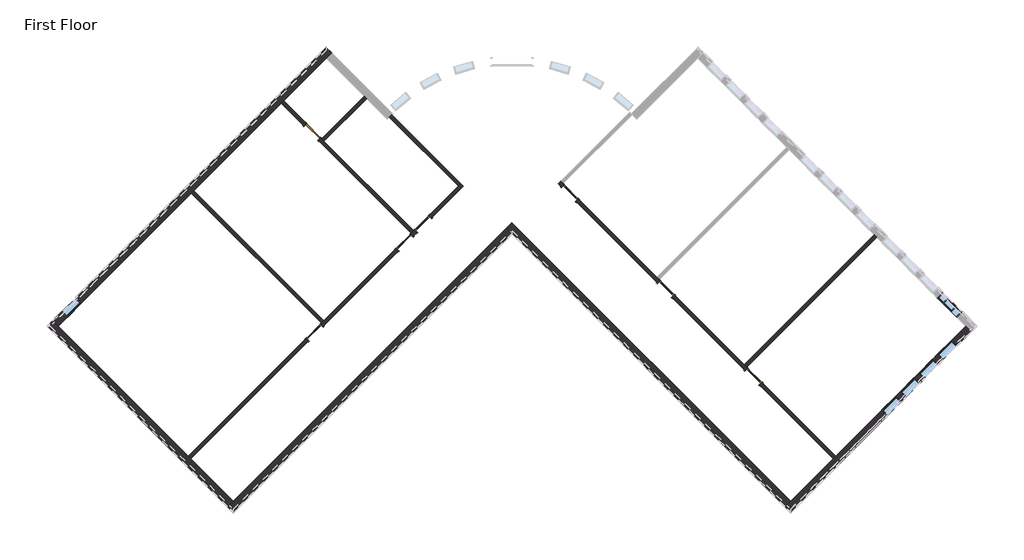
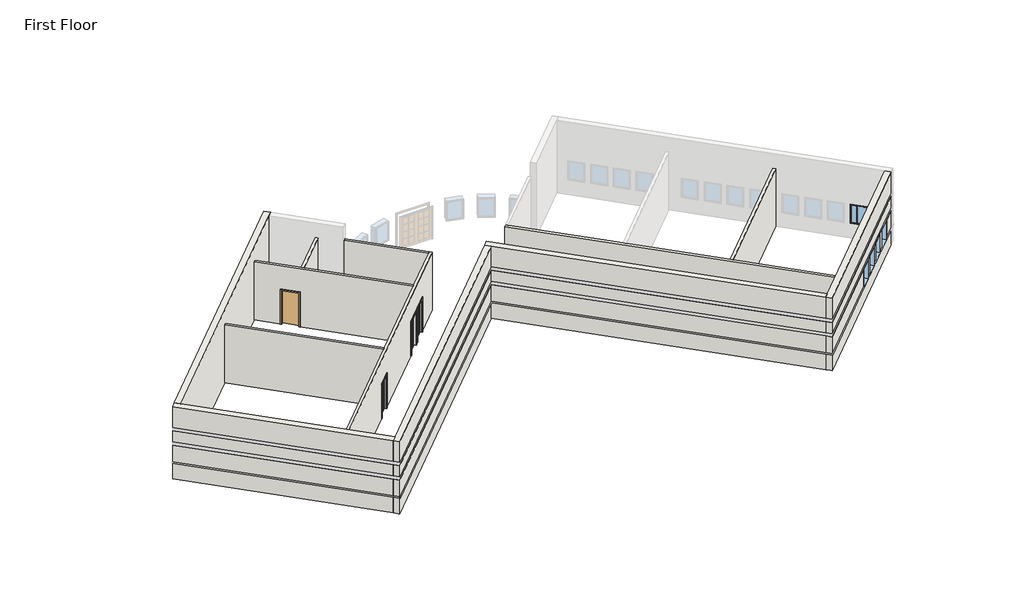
# One storey, part 1 of 3: 12 walls, 7 doors, 7 windows.
"""IFC4 building model written with IfcOpenShell, lengths in millimetres."""

import ifcopenshell
import ifcopenshell.guid

model = None  # the IFC model being written
_history = None  # IfcOwnerHistory: only IFC2X3 demands one
_inside = {}  # id of a spatial element -> (the spatial element, [elements in it])
_under = {}  # id of a project, library or spatial element -> (it, [spatial elements below it])
_declared = {}  # id of a project -> (the project, [libraries it declares])
_typed = {}  # id of a type object -> (the type object, [elements of that type])
_made_of = {}  # id of a material, layer set ... -> (it, [elements and type objects made of it])


def new_model(schema):
    """Start an empty IFC model of exactly this schema.

    Asked for "IFC4X3", IfcOpenShell would pick the latest addendum, in which some entities
    have other attributes; the version numbers below select the first issue.
    IFC2X3 requires an IfcOwnerHistory on every rooted entity: one is made here for all.
    """
    global model, _history
    if schema == "IFC4X3":
        model = ifcopenshell.file(schema_version=(4, 3, 0, 0))
    else:
        model = ifcopenshell.file(schema=schema)
    _inside.clear()
    _under.clear()
    _declared.clear()
    _typed.clear()
    _made_of.clear()
    _history = None
    if model.schema == "IFC2X3":
        org = make("IfcOrganization", Name="unknown")
        user = make(
            "IfcPersonAndOrganization",
            ThePerson=make("IfcPerson", FamilyName="unknown"),
            TheOrganization=org,
        )
        app = make(
            "IfcApplication",
            ApplicationDeveloper=org,
            Version="unknown",
            ApplicationFullName="unknown",
            ApplicationIdentifier="unknown",
        )
        _history = make(
            "IfcOwnerHistory",
            OwningUser=user,
            OwningApplication=app,
            ChangeAction="ADDED",
            CreationDate=0,
        )
    return model


def make(cls, **values):
    """One entity of the class cls with the attributes given. An attribute that is None is left unset."""
    return model.create_entity(
        cls, **{name: value for name, value in values.items() if value is not None}
    )


def rooted(cls, **values):
    """An entity with a GlobalId (a new one), such as an element, a storey or a relation."""
    return make(cls, GlobalId=ifcopenshell.guid.new(), OwnerHistory=_history, **values)


def si_unit(unit_type, name, prefix=None):
    """IfcSIUnit, for example si_unit("LENGTHUNIT", "METRE", prefix="MILLI")."""
    return make("IfcSIUnit", UnitType=unit_type, Prefix=prefix, Name=name)


def assignment(units):
    """IfcUnitAssignment: the units of a project."""
    return None if units is None else make("IfcUnitAssignment", Units=units)


def point(xyz):
    """IfcCartesianPoint."""
    return None if xyz is None else make("IfcCartesianPoint", Coordinates=xyz)


def direction(xyz):
    """IfcDirection."""
    return None if xyz is None else make("IfcDirection", DirectionRatios=xyz)


def frame(location, z_axis=None, x_axis=None):
    """IfcAxis2Placement3D, a coordinate frame: its origin and axes. An axis left out is left unset."""
    return make(
        "IfcAxis2Placement3D",
        Location=point(location),
        Axis=direction(z_axis),
        RefDirection=direction(x_axis),
    )


def frame_2d(location, x_axis=None):
    """IfcAxis2Placement2D, a coordinate frame in the plane: its origin and x axis."""
    return make(
        "IfcAxis2Placement2D", Location=point(location), RefDirection=direction(x_axis)
    )


def origin():
    """The frame at (0, 0, 0) with its axes left unset."""
    return frame((0.0, 0.0, 0.0))


def origin_with_axes():
    """The frame at (0, 0, 0) with the z axis (0, 0, 1) and the x axis (1, 0, 0) written out."""
    return frame((0.0, 0.0, 0.0), z_axis=(0.0, 0.0, 1.0), x_axis=(1.0, 0.0, 0.0))


def place(relative_to, where):
    """IfcLocalPlacement: puts the frame where relative to a parent placement (None: the world)."""
    return make(
        "IfcLocalPlacement", PlacementRelTo=relative_to, RelativePlacement=where
    )


def context(
    kind, dimensions, precision=None, world=None, true_north=None, identifier=None
):
    """IfcGeometricRepresentationContext, for example the 3D "Model" context."""
    return make(
        "IfcGeometricRepresentationContext",
        ContextIdentifier=identifier,
        ContextType=kind,
        CoordinateSpaceDimension=dimensions,
        Precision=precision,
        WorldCoordinateSystem=world,
        TrueNorth=true_north,
    )


def project(units=None, contexts=None):
    """IfcProject with its units and contexts."""
    return rooted(
        "IfcProject",
        Name="project",
        RepresentationContexts=contexts,
        UnitsInContext=assignment(units),
    )


def spatial(cls, under=None, at=None, **own):
    """A site, building, storey or space (cls), placed at a placement, below another one or the project."""
    s = rooted(cls, ObjectPlacement=at, **own)
    if under is not None:
        _under.setdefault(under.id(), (under, []))[1].append(s)
    return s


def polyline(points):
    """IfcPolyline through the points."""
    return make("IfcPolyline", Points=[point(p) for p in points])


def circle_curve(where, radius):
    """IfcCircle in the frame where."""
    return make("IfcCircle", Position=where, Radius=radius)


def trimmed(basis, trim1, trim2, sense, master):
    """IfcTrimmedCurve: the piece of a basis curve between two trims."""
    return make(
        "IfcTrimmedCurve",
        BasisCurve=basis,
        Trim1=trim1,
        Trim2=trim2,
        SenseAgreement=sense,
        MasterRepresentation=master,
    )


def segment(curve, same_sense, transition):
    """IfcCompositeCurveSegment."""
    return make(
        "IfcCompositeCurveSegment",
        Transition=transition,
        SameSense=same_sense,
        ParentCurve=curve,
    )


def composite_curve(segments, self_intersect=None):
    """IfcCompositeCurve: segments joined end to end."""
    return make("IfcCompositeCurve", Segments=segments, SelfIntersect=self_intersect)


def outline(outer, holes=None, kind="AREA"):
    """IfcArbitraryClosedProfileDef: a profile drawn as a closed curve; with holes, ...WithVoids."""
    if holes is None:
        return make("IfcArbitraryClosedProfileDef", ProfileType=kind, OuterCurve=outer)
    return make(
        "IfcArbitraryProfileDefWithVoids",
        ProfileType=kind,
        OuterCurve=outer,
        InnerCurves=holes,
    )


def extrude(swept, where, along, depth):
    """IfcExtrudedAreaSolid: the profile swept, set in the frame where, extruded along a direction by depth."""
    return make(
        "IfcExtrudedAreaSolid",
        SweptArea=swept,
        Position=where,
        ExtrudedDirection=direction(along),
        Depth=depth,
    )


def faces_of(points, faces, orient=None, outer=None):
    """IfcFace entities. A face is a list of loops; a loop is a list of indices into points, from 0.

    orient and outer hold one flag for each loop. By default every Orientation is true, the
    first loop of a face is its IfcFaceOuterBound and the others are IfcFaceBound.
    """
    made = []
    for i, loops in enumerate(faces):
        bounds = []
        for j, loop in enumerate(loops):
            is_outer = j == 0 if outer is None else outer[i][j]
            bounds.append(
                make(
                    "IfcFaceOuterBound" if is_outer else "IfcFaceBound",
                    Bound=make("IfcPolyLoop", Polygon=[points[k] for k in loop]),
                    Orientation=True if orient is None else orient[i][j],
                )
            )
        made.append(make("IfcFace", Bounds=bounds))
    return made


def faceted_brep(points, faces, orient=None, outer=None, voids=None):
    """IfcFacetedBrep: a solid bounded by flat faces; with voids (closed shells), ...WithVoids."""
    shared = [point(p) for p in points]
    hull = make("IfcClosedShell", CfsFaces=faces_of(shared, faces, orient, outer))
    if voids is None:
        return make("IfcFacetedBrep", Outer=hull)
    return make(
        "IfcFacetedBrepWithVoids",
        Outer=hull,
        Voids=[
            make(cls, CfsFaces=faces_of(shared, fs, o, b)) for cls, fs, o, b in voids
        ],
    )


def shape(context_of_items, identifier, shape_type, items):
    """IfcShapeRepresentation: the items that make up one representation, for example the "Body"."""
    return make(
        "IfcShapeRepresentation",
        ContextOfItems=context_of_items,
        RepresentationIdentifier=identifier,
        RepresentationType=shape_type,
        Items=items,
    )


def source(mapping_origin, context_of_items, identifier, shape_type, items):
    """IfcRepresentationMap: a shape defined once, which mapped items show again and again."""
    return make(
        "IfcRepresentationMap",
        MappingOrigin=mapping_origin,
        MappedRepresentation=shape(context_of_items, identifier, shape_type, items),
    )


def transform(
    local_origin,
    x_axis=None,
    y_axis=None,
    z_axis=None,
    scale=None,
    scale2=None,
    scale3=None,
    uniform=True,
):
    """IfcCartesianTransformationOperator3D, or its non-uniform kind. x_axis, y_axis, z_axis: its Axis1, 2, 3."""
    if uniform:
        return make(
            "IfcCartesianTransformationOperator3D",
            Axis1=direction(x_axis),
            Axis2=direction(y_axis),
            LocalOrigin=point(local_origin),
            Scale=scale,
            Axis3=direction(z_axis),
        )
    return make(
        "IfcCartesianTransformationOperator3DnonUniform",
        Axis1=direction(x_axis),
        Axis2=direction(y_axis),
        LocalOrigin=point(local_origin),
        Scale=scale,
        Axis3=direction(z_axis),
        Scale2=scale2,
        Scale3=scale3,
    )


def mapped(mapping_source, mapping_target):
    """IfcMappedItem: shows the shape of a source again, moved by a transform."""
    return make(
        "IfcMappedItem", MappingSource=mapping_source, MappingTarget=mapping_target
    )


def made_of(thing, what):
    """Note that an element or type object is made of a material, layer set ...; save() writes the relation."""
    if what is not None:
        _made_of.setdefault(what.id(), (what, []))[1].append(thing)
    return thing


def element(
    cls,
    number,
    at=None,
    inside=None,
    cuts=None,
    type_object=None,
    material=None,
    context=None,
    identifier="Body",
    shape_type=None,
    held_by="IfcProductDefinitionShape",
    body=None,
    shapes=None,
    **own,
):
    """One element of the class cls, such as IfcWall. Its Tag is "e" and its number.

    at: its placement. inside: the storey or other place that contains it. cuts: it is an
    opening in that element (IfcRelVoidsElement). A single representation is given by context,
    identifier, shape_type and body (its items); several are given by shapes. held_by: the class
    of the entity that holds the representations. save() writes the other relations.
    """
    e = rooted(cls, Tag="e%d" % number, ObjectPlacement=at, **own)
    if body is not None:
        shapes = [shape(context, identifier, shape_type, body)]
    if shapes is not None:
        e.Representation = make(held_by, Representations=shapes)
    if inside is not None:
        _inside.setdefault(inside.id(), (inside, []))[1].append(e)
    if cuts is not None:
        rooted(
            "IfcRelVoidsElement", RelatingBuildingElement=cuts, RelatedOpeningElement=e
        )
    if type_object is not None:
        _typed.setdefault(type_object.id(), (type_object, []))[1].append(e)
    return made_of(e, material)


def aggregate(whole, parts):
    """IfcRelAggregates: a whole, such as a stair, and the parts it consists of."""
    return rooted("IfcRelAggregates", RelatingObject=whole, RelatedObjects=parts)


def save(model, path):
    """Write the relations noted so far, then the file.

    IfcRelAggregates (storeys below a building ...), IfcRelContainedInSpatialStructure (elements
    in a storey), IfcRelDefinesByType, IfcRelAssociatesMaterial and IfcRelDeclares: one each for
    every whole, place, type object, material and project.
    """
    for whole, parts in _under.values():
        aggregate(whole, parts)
    for where, things in _inside.values():
        rooted(
            "IfcRelContainedInSpatialStructure",
            RelatedElements=things,
            RelatingStructure=where,
        )
    for kind, things in _typed.values():
        rooted("IfcRelDefinesByType", RelatedObjects=things, RelatingType=kind)
    for what, things in _made_of.values():
        rooted("IfcRelAssociatesMaterial", RelatedObjects=things, RelatingMaterial=what)
    for by, libraries in _declared.values():
        rooted("IfcRelDeclares", RelatingContext=by, RelatedDefinitions=libraries)
    model.write(path)


def door_f9494b7c(model_context):
    return source(origin(), model_context, "Body", "SweptSolid", [
        extrude(outline(polyline([(2209.8, -533.4), (0.0, -533.4), (0.0, -457.2), (2133.6, -457.2), (2133.6, 457.2), (0.0, 457.2), (0.0, 533.4), (2209.8, 533.4), (2209.8, -533.4)])), frame((0.0, 77.7875, 0.0), z_axis=(0.0, 1.0, 0.0), x_axis=(0.0, 0.0, 1.0)), (0.0, 0.0, 1.0), 25.4),
        extrude(outline(polyline([(2209.8, 533.4), (2209.8, -533.4), (0.0, -533.4), (0.0, -457.2), (2133.6, -457.2), (2133.6, 457.2), (0.0, 457.2), (0.0, 533.4), (2209.8, 533.4)])), frame((0.0, -103.1875, 0.0), z_axis=(0.0, 1.0, 0.0), x_axis=(0.0, 0.0, 1.0)), (0.0, 0.0, 1.0), 25.4),
        extrude(outline(polyline([(457.2, 26.9875), (-457.2, 26.9875), (-457.2, 77.7875), (457.2, 77.7875), (457.2, 26.9875)])), origin_with_axes(), (0.0, 0.0, 1.0), 2133.6),
    ])


def door_b81abb0e(model_context):
    return source(origin(), model_context, "Body", "SweptSolid", [
        extrude(outline(polyline([(2133.6, 457.2), (0.0, 457.2), (0.0, 533.4), (2209.8, 533.4), (2209.8, -533.4), (0.0, -533.4), (0.0, -457.2), (2133.6, -457.2), (2133.6, 457.2)])), frame((0.0, -103.1875, 0.0), z_axis=(0.0, 1.0, 0.0), x_axis=(0.0, 0.0, 1.0)), (0.0, 0.0, 1.0), 25.4),
        extrude(outline(polyline([(2133.6, 457.2), (0.0, 457.2), (0.0, 533.4), (2209.8, 533.4), (2209.8, -533.4), (0.0, -533.4), (0.0, -457.2), (2133.6, -457.2), (2133.6, 457.2)])), frame((0.0, 77.7875, 0.0), z_axis=(0.0, 1.0, 0.0), x_axis=(0.0, 0.0, 1.0)), (0.0, 0.0, 1.0), 25.4),
        extrude(outline(polyline([(355.6, 49.2125), (-355.6, 49.2125), (-355.6, 55.5625), (355.6, 55.5625), (355.6, 49.2125)])), frame((0.0, 0.0, 101.6), z_axis=(0.0, 0.0, 1.0), x_axis=(1.0, 0.0, 0.0)), (0.0, 0.0, 1.0), 1930.4),
        extrude(outline(polyline([(2133.6, 457.2), (2133.6, -457.2), (0.0, -457.2), (0.0, 457.2), (2133.6, 457.2)]), holes=[polyline([(2032.0, -355.6), (2032.0, 355.6), (101.6, 355.6), (101.6, -355.6), (2032.0, -355.6)])]), frame((0.0, 26.9875, 0.0), z_axis=(0.0, 1.0, 0.0), x_axis=(0.0, 0.0, 1.0)), (0.0, 0.0, 1.0), 50.8),
    ])


def door_5f5b55da(model_context):
    return source(origin(), model_context, "Body", "SweptSolid", [
        extrude(outline(polyline([(2133.6, 457.2), (0.0, 457.2), (0.0, 533.4), (2209.8, 533.4), (2209.8, -533.4), (0.0, -533.4), (0.0, -457.2), (2133.6, -457.2), (2133.6, 457.2)])), frame((0.0, 77.7875, 0.0), z_axis=(0.0, 1.0, 0.0), x_axis=(0.0, 0.0, 1.0)), (0.0, 0.0, 1.0), 25.4),
        extrude(outline(polyline([(2133.6, 457.2), (0.0, 457.2), (0.0, 533.4), (2209.8, 533.4), (2209.8, -533.4), (0.0, -533.4), (0.0, -457.2), (2133.6, -457.2), (2133.6, 457.2)])), frame((0.0, -103.1875, 0.0), z_axis=(0.0, 1.0, 0.0), x_axis=(0.0, 0.0, 1.0)), (0.0, 0.0, 1.0), 25.4),
        extrude(outline(polyline([(355.6, -49.2125), (355.6, -55.5625), (-355.6, -55.5625), (-355.6, -49.2125), (355.6, -49.2125)])), frame((0.0, 0.0, 101.6), z_axis=(0.0, 0.0, 1.0), x_axis=(1.0, 0.0, 0.0)), (0.0, 0.0, 1.0), 1930.4),
        extrude(outline(polyline([(2133.6, 457.2), (2133.6, -457.2), (0.0, -457.2), (0.0, 457.2), (2133.6, 457.2)]), holes=[polyline([(2032.0, -355.6), (2032.0, 355.6), (101.6, 355.6), (101.6, -355.6), (2032.0, -355.6)])]), frame((0.0, -77.7875, 0.0), z_axis=(0.0, 1.0, 0.0), x_axis=(0.0, 0.0, 1.0)), (0.0, 0.0, 1.0), 50.8),
    ])


def window_15c49d37(model_context):
    return source(origin(), model_context, "Body", "SweptSolid", [
        extrude(outline(polyline([(355.6, 128.5875), (-431.8, 128.5875), (-431.8, 141.2875), (355.6, 141.2875), (355.6, 128.5875)])), frame((0.0, 0.0, 977.9), z_axis=(0.0, 0.0, 1.0), x_axis=(1.0, 0.0, 0.0)), (0.0, 0.0, 1.0), 1092.2),
        extrude(outline(polyline([(2114.55, -476.25), (933.45, -476.25), (933.45, 400.05), (2114.55, 400.05), (2114.55, -476.25)]), holes=[polyline([(2070.1, -431.8), (2070.1, 355.6), (977.9, 355.6), (977.9, -431.8), (2070.1, -431.8)])]), frame((0.0, 112.7125, 0.0), z_axis=(0.0, 1.0, 0.0), x_axis=(0.0, 0.0, 1.0)), (0.0, 0.0, 1.0), 44.45),
        extrude(outline(polyline([(2133.6, -495.3), (914.4, -495.3), (914.4, 419.1), (2133.6, 419.1), (2133.6, -495.3)]), holes=[polyline([(2101.85, -463.55), (2101.85, 387.35), (946.15, 387.35), (946.15, -463.55), (2101.85, -463.55)])]), frame((0.0, -176.2125, 0.0), z_axis=(0.0, 1.0, 0.0), x_axis=(0.0, 0.0, 1.0)), (0.0, 0.0, 1.0), 288.925),
        extrude(outline(polyline([(2133.6, 419.1), (2133.6, -495.3), (914.4, -495.3), (914.4, 419.1), (2133.6, 419.1)]), holes=[polyline([(2114.55, 400.05), (933.45, 400.05), (933.45, -476.25), (2114.55, -476.25), (2114.55, 400.05)])]), frame((0.0, 112.7125, 0.0), z_axis=(0.0, 1.0, 0.0), x_axis=(0.0, 0.0, 1.0)), (0.0, 0.0, 1.0), 63.5),
    ])


def window_0e2fc6ce(model_context):
    return source(origin(), model_context, "Body", "SweptSolid", [
        extrude(outline(polyline([(355.6, -128.5875), (355.6, -141.2875), (-431.8, -141.2875), (-431.8, -128.5875), (355.6, -128.5875)])), frame((0.0, 0.0, 977.9), z_axis=(0.0, 0.0, 1.0), x_axis=(1.0, 0.0, 0.0)), (0.0, 0.0, 1.0), 1092.2),
        extrude(outline(polyline([(2114.55, -476.25), (933.45, -476.25), (933.45, 400.05), (2114.55, 400.05), (2114.55, -476.25)]), holes=[polyline([(2070.1, -431.8), (2070.1, 355.6), (977.9, 355.6), (977.9, -431.8), (2070.1, -431.8)])]), frame((0.0, -157.1625, 0.0), z_axis=(0.0, 1.0, 0.0), x_axis=(0.0, 0.0, 1.0)), (0.0, 0.0, 1.0), 44.45),
        extrude(outline(polyline([(2133.6, -495.3), (914.4, -495.3), (914.4, 419.1), (2133.6, 419.1), (2133.6, -495.3)]), holes=[polyline([(2101.85, -463.55), (2101.85, 387.35), (946.15, 387.35), (946.15, -463.55), (2101.85, -463.55)])]), frame((0.0, -112.7125, 0.0), z_axis=(0.0, 1.0, 0.0), x_axis=(0.0, 0.0, 1.0)), (0.0, 0.0, 1.0), 288.925),
        extrude(outline(polyline([(2133.6, 419.1), (2133.6, -495.3), (914.4, -495.3), (914.4, 419.1), (2133.6, 419.1)]), holes=[polyline([(2114.55, 400.05), (933.45, 400.05), (933.45, -476.25), (2114.55, -476.25), (2114.55, 400.05)])]), frame((0.0, -176.2125, 0.0), z_axis=(0.0, 1.0, 0.0), x_axis=(0.0, 0.0, 1.0)), (0.0, 0.0, 1.0), 63.5),
    ])


model = new_model("IFC4")

# Units and contexts
model_context = context("Model", 3, world=origin())
ifc_project = project(units=[si_unit("LENGTHUNIT", "METRE", prefix="MILLI")], contexts=[model_context])

# Site, building, storey
site = spatial("IfcSite", under=ifc_project)
building = spatial("IfcBuilding", under=site)
storey = spatial("IfcBuildingStorey", under=building, Name="First Floor", Elevation=0.0)

# Doors
placement = place(None, origin())
door_shape = door_f9494b7c(model_context)
element("IfcDoor", 1, ObjectType="Single-Flush : 36\" x 84\"", at=placement, inside=storey, context=model_context, shape_type="MappedRepresentation", body=[
    mapped(door_shape, transform((-12710.6349126, 7029.9464017, 0.0), x_axis=(0.7071067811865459, -0.7071067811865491, 0.0), y_axis=(0.7071067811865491, 0.7071067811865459, 0.0), z_axis=(0.0, 0.0, 1.0))),
])
door_2_shape = door_b81abb0e(model_context)
element("IfcDoor", 2, ObjectType="Single-Glass 1 : 36\" x 84\"", at=placement, inside=storey, context=model_context, shape_type="MappedRepresentation", body=[
    mapped(door_2_shape, transform((-12602.8718391, -2278.0890678, 0.0), x_axis=(0.707106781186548, 0.707106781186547, 0.0), y_axis=(-0.707106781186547, 0.707106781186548, 0.0), z_axis=(0.0, 0.0, 1.0))),
])
element("IfcDoor", 3, ObjectType="Single-Glass 1 : 36\" x 84\"", at=placement, inside=storey, context=model_context, shape_type="MappedRepresentation", body=[
    mapped(door_2_shape, transform((-8433.7879349, 1890.9948364, 0.0), x_axis=(0.707106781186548, 0.707106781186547, 0.0), y_axis=(-0.707106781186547, 0.707106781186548, 0.0), z_axis=(0.0, 0.0, 1.0))),
])
door_3_shape = door_5f5b55da(model_context)
element("IfcDoor", 4, ObjectType="Single-Glass 1 : 36\" x 84\"", at=placement, inside=storey, context=model_context, shape_type="MappedRepresentation", body=[
    mapped(door_3_shape, transform((-7571.6833473, 2753.0994241, 0.0), x_axis=(-0.707106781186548, -0.707106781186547, 0.0), y_axis=(0.707106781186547, -0.707106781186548, 0.0), z_axis=(0.0, 0.0, 1.0))),
])
element("IfcDoor", 5, ObjectType="Single-Glass 1 : 36\" x 84\"", at=placement, inside=storey, context=model_context, shape_type="MappedRepresentation", body=[
    mapped(door_3_shape, transform((-756.7914834, 4195.5530635, 0.0), x_axis=(-0.7071067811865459, 0.7071067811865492, 0.0), y_axis=(-0.7071067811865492, -0.7071067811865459, 0.0), z_axis=(0.0, 0.0, 1.0))),
])
element("IfcDoor", 6, ObjectType="Single-Glass 1 : 36\" x 84\"", at=placement, inside=storey, context=model_context, shape_type="MappedRepresentation", body=[
    mapped(door_3_shape, transform((3703.0282127, -264.2666326, 0.0), x_axis=(-0.7071067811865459, 0.7071067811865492, 0.0), y_axis=(-0.7071067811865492, -0.7071067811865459, 0.0), z_axis=(0.0, 0.0, 1.0))),
])
element("IfcDoor", 7, ObjectType="Single-Glass 1 : 36\" x 84\"", at=placement, inside=storey, context=model_context, shape_type="MappedRepresentation", body=[
    mapped(door_3_shape, transform((7764.3490435, -4325.5874634, 0.0), x_axis=(-0.7071067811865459, 0.7071067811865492, 0.0), y_axis=(-0.7071067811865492, -0.7071067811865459, 0.0), z_axis=(0.0, 0.0, 1.0))),
])

# Walls
element("IfcWall", 8, ObjectType="Exterior - Split Face and CMU on Mtl. Stud", at=placement, inside=storey, context=model_context, shape_type="Brep", body=[
    faceted_brep([(17611.1998802, -1988.4758079, 0.0), (11574.2227029, -8025.4529853, 0.0), (11464.2145654, -8135.4611227, 0.0), (9488.5582187, -10111.1174694, 0.0), (9239.3561114, -10360.3195767, 0.0), (9239.3561114, -10360.3195767, 1016.0), (9304.4629682, -10295.2127199, 1016.0), (9304.4629682, -10295.2127199, 1085.85), (9239.3561114, -10360.3195767, 1085.85), (9239.3561114, -10360.3195767, 2133.6), (9304.4629682, -10295.2127199, 2133.6), (9304.4629682, -10295.2127199, 2336.8), (9239.3561114, -10360.3195767, 2336.8), (9239.3561114, -10360.3195767, 3048.0), (9304.4629682, -10295.2127199, 3048.0), (9304.4629682, -10295.2127199, 3251.2), (9239.3561114, -10360.3195767, 3251.2), (9239.3561114, -10360.3195767, 4572.0), (9488.5582187, -10111.1174694, 4572.0), (17611.1998802, -1988.4758079, 4572.0), (16301.2050186, -3298.4706695, 2133.6), (16301.2050186, -3298.4706695, 914.4), (16947.7834593, -2651.8922288, 914.4), (16947.7834593, -2651.8922288, 2133.6), (15439.100431, -4160.5752571, 2133.6), (15439.100431, -4160.5752571, 914.4), (16085.6788717, -3513.9968164, 914.4), (16085.6788717, -3513.9968164, 2133.6), (14576.9958433, -5022.6798448, 2133.6), (14576.9958433, -5022.6798448, 914.4), (15223.574284, -4376.1014041, 914.4), (15223.574284, -4376.1014041, 2133.6), (13714.8912557, -5884.7844324, 2133.6), (13714.8912557, -5884.7844324, 914.4), (14361.4696964, -5238.2059917, 914.4), (14361.4696964, -5238.2059917, 2133.6), (17860.4019876, -2237.6779152, 4572.0), (9488.5582187, -10609.5216841, 4572.0), (9488.5582187, -10609.5216841, 3251.2), (17860.4019876, -2237.6779152, 3251.2), (9488.5582187, -10609.5216841, 0.0), (17860.4019876, -2237.6779152, 0.0), (17860.4019876, -2237.6779152, 1016.0), (17196.9855667, -2901.0943362, 1016.0), (17196.9855667, -2901.0943362, 914.4), (16550.4071259, -3547.6727769, 914.4), (16550.4071259, -3547.6727769, 1016.0), (16334.880979, -3763.1989238, 1016.0), (16334.880979, -3763.1989238, 914.4), (15688.3025383, -4409.7773645, 914.4), (15688.3025383, -4409.7773645, 1016.0), (15472.7763914, -4625.3035114, 1016.0), (15472.7763914, -4625.3035114, 914.4), (14826.1979507, -5271.8819521, 914.4), (14826.1979507, -5271.8819521, 1016.0), (14610.6718038, -5487.408099, 1016.0), (14610.6718038, -5487.408099, 914.4), (13964.0933631, -6133.9865398, 914.4), (13964.0933631, -6133.9865398, 1016.0), (9488.5582187, -10609.5216841, 1016.0), (9488.5582187, -10609.5216841, 1085.85), (13964.0933631, -6133.9865398, 1085.85), (13964.0933631, -6133.9865398, 2133.6), (9488.5582187, -10609.5216841, 2133.6), (17196.9855667, -2901.0943362, 1085.85), (17860.4019876, -2237.6779152, 1085.85), (17860.4019876, -2237.6779152, 2133.6), (17196.9855667, -2901.0943362, 2133.6), (9488.5582187, -10609.5216841, 2336.8), (17860.4019876, -2237.6779152, 2336.8), (17860.4019876, -2237.6779152, 3048.0), (9488.5582187, -10609.5216841, 3048.0), (16550.4071259, -3547.6727769, 1085.85), (16550.4071259, -3547.6727769, 2133.6), (16334.880979, -3763.1989238, 2133.6), (16334.880979, -3763.1989238, 1085.85), (15688.3025383, -4409.7773645, 1085.85), (15688.3025383, -4409.7773645, 2133.6), (15472.7763914, -4625.3035114, 2133.6), (15472.7763914, -4625.3035114, 1085.85), (14826.1979507, -5271.8819521, 1085.85), (14826.1979507, -5271.8819521, 2133.6), (14610.6718038, -5487.408099, 2133.6), (14610.6718038, -5487.408099, 1085.85), (17795.2951307, -2172.5710583, 0.0), (9423.4513619, -10544.4148272, 0.0), (9488.5582187, -10479.3079703, 1085.85), (13898.9865062, -6068.8796829, 1085.85), (13898.9865062, -6068.8796829, 1016.0), (9488.5582187, -10479.3079703, 1016.0), (17795.2951307, -2172.5710583, 2336.8), (9488.5582187, -10479.3079703, 2336.8), (9488.5582187, -10479.3079703, 2133.6), (13898.9865062, -6068.8796829, 2133.6), (14545.5649469, -5422.3012422, 2133.6), (14761.0910938, -5206.7750953, 2133.6), (15407.6695345, -4560.1966545, 2133.6), (15623.1956814, -4344.6705076, 2133.6), (16269.7741222, -3698.0920669, 2133.6), (16485.3002691, -3482.56592, 2133.6), (17131.8787098, -2835.9874793, 2133.6), (17795.2951307, -2172.5710583, 2133.6), (9488.5582187, -10479.3079703, 3251.2), (9488.5582187, -10479.3079703, 3048.0), (17795.2951307, -2172.5710583, 3048.0), (17795.2951307, -2172.5710583, 3251.2), (17795.2951307, -2172.5710583, 1085.85), (17795.2951307, -2172.5710583, 1016.0), (17131.8787098, -2835.9874793, 1085.85), (17131.8787098, -2835.9874793, 1016.0), (16485.3002691, -3482.56592, 1085.85), (16485.3002691, -3482.56592, 1016.0), (15623.1956814, -4344.6705076, 1085.85), (15623.1956814, -4344.6705076, 1016.0), (16269.7741222, -3698.0920669, 1016.0), (16269.7741222, -3698.0920669, 1085.85), (14761.0910938, -5206.7750953, 1085.85), (14761.0910938, -5206.7750953, 1016.0), (15407.6695345, -4560.1966545, 1016.0), (15407.6695345, -4560.1966545, 1085.85), (14545.5649469, -5422.3012422, 1016.0), (14545.5649469, -5422.3012422, 1085.85)], [[[0, 1, 2, 3, 4, 5, 6, 7, 8, 9, 10, 11, 12, 13, 14, 15, 16, 17, 18, 19], [20, 21, 22, 23], [24, 25, 26, 27], [28, 29, 30, 31], [32, 33, 34, 35]], [[36, 37, 38, 39]], [[40, 41, 42, 43, 44, 45, 46, 47, 48, 49, 50, 51, 52, 53, 54, 55, 56, 57, 58, 59]], [[60, 61, 62, 63]], [[64, 65, 66, 67]], [[68, 69, 70, 71]], [[72, 73, 74, 75]], [[76, 77, 78, 79]], [[80, 81, 82, 83]], [[19, 18, 17, 37, 36]], [[4, 3, 2, 1, 0, 84, 85]], [[86, 87, 61, 60, 8, 7]], [[88, 89, 6, 5, 59, 58]], [[87, 86, 89, 88]], [[90, 91, 92, 93, 94, 95, 96, 97, 98, 99, 100, 101]], [[102, 103, 104, 105]], [[0, 19, 36, 39, 105, 104, 70, 69, 90, 101, 66, 65, 106, 107, 42, 41, 84]], [[41, 40, 85, 84]], [[65, 64, 108, 106]], [[43, 42, 107, 109]], [[66, 101, 100, 67]], [[63, 62, 93, 92, 10, 9]], [[99, 98, 74, 73]], [[97, 96, 78, 77]], [[95, 94, 82, 81]], [[91, 90, 69, 68, 12, 11]], [[104, 103, 14, 13, 71, 70]], [[15, 102, 105, 39, 38, 16]], [[37, 17, 16, 38]], [[4, 85, 40, 59, 5]], [[12, 68, 71, 13]], [[9, 8, 60, 63]], [[92, 91, 11, 10]], [[103, 102, 15, 14]], [[21, 20, 99, 73, 72, 110, 111, 46, 45]], [[22, 21, 45, 44]], [[23, 22, 44, 43, 109, 108, 64, 67, 100]], [[20, 23, 100, 99]], [[25, 24, 97, 77, 76, 112, 113, 50, 49]], [[26, 25, 49, 48]], [[27, 26, 48, 47, 114, 115, 75, 74, 98]], [[24, 27, 98, 97]], [[29, 28, 95, 81, 80, 116, 117, 54, 53]], [[30, 29, 53, 52]], [[31, 30, 52, 51, 118, 119, 79, 78, 96]], [[28, 31, 96, 95]], [[33, 32, 93, 62, 61, 87, 88, 58, 57]], [[34, 33, 57, 56]], [[35, 34, 56, 55, 120, 121, 83, 82, 94]], [[32, 35, 94, 93]], [[106, 108, 109, 107]], [[115, 110, 72, 75]], [[111, 114, 47, 46]], [[110, 115, 114, 111]], [[119, 112, 76, 79]], [[113, 118, 51, 50]], [[112, 119, 118, 113]], [[121, 116, 80, 83]], [[117, 120, 55, 54]], [[116, 121, 120, 117]], [[89, 86, 7, 6]]]),
])
element("IfcWall", 9, ObjectType="Exterior - Split Face and CMU on Mtl. Stud", at=placement, inside=storey, context=model_context, shape_type="Brep", body=[
    faceted_brep([(9488.5582187, -10111.1174694, 0.0), (-3443.0105956, 2820.451345, 0.0), (-3443.0105956, 2820.451345, 4572.0), (9488.5582187, -10111.1174694, 4572.0), (9239.3561114, -10360.3195767, 4572.0), (-3443.0105956, 2322.0471303, 4572.0), (-3692.212703, 2571.2492376, 4572.0), (-3692.212703, 2571.2492376, 0.0), (-3443.0105956, 2322.0471303, 0.0), (9239.3561114, -10360.3195767, 0.0), (9239.3561114, -10360.3195767, 1016.0), (-3443.0105956, 2322.0471303, 1016.0), (-3508.1174525, 2387.1539871, 1016.0), (-3508.1174525, 2387.1539871, 1085.85), (-3443.0105956, 2322.0471303, 1085.85), (9239.3561114, -10360.3195767, 1085.85), (9239.3561114, -10360.3195767, 2133.6), (-3443.0105956, 2322.0471303, 2133.6), (-3508.1174525, 2387.1539871, 2133.6), (-3508.1174525, 2387.1539871, 2336.8), (-3443.0105956, 2322.0471303, 2336.8), (9239.3561114, -10360.3195767, 2336.8), (9239.3561114, -10360.3195767, 3048.0), (-3443.0105956, 2322.0471303, 3048.0), (-3508.1174525, 2387.1539871, 3048.0), (-3508.1174525, 2387.1539871, 3251.2), (-3443.0105956, 2322.0471303, 3251.2), (9239.3561114, -10360.3195767, 3251.2), (9304.4629682, -10295.2127199, 0.0), (-3627.1058461, 2636.3560945, 0.0), (-3443.0105956, 2452.260844, 1016.0), (9304.4629682, -10295.2127199, 1016.0), (9304.4629682, -10295.2127199, 1085.85), (-3443.0105956, 2452.260844, 1085.85), (-3443.0105956, 2452.260844, 2133.6), (9304.4629682, -10295.2127199, 2133.6), (9304.4629682, -10295.2127199, 2336.8), (-3443.0105956, 2452.260844, 2336.8), (-3443.0105956, 2452.260844, 3251.2), (-3443.0105956, 2452.260844, 3048.0), (9304.4629682, -10295.2127199, 3048.0), (9304.4629682, -10295.2127199, 3251.2)], [[[0, 1, 2, 3]], [[4, 5, 6, 7, 8, 9, 10, 11, 12, 13, 14, 15, 16, 17, 18, 19, 20, 21, 22, 23, 24, 25, 26, 27]], [[3, 2, 6, 5, 4]], [[1, 0, 28, 29]], [[30, 31, 32, 33]], [[34, 35, 36, 37]], [[38, 39, 40, 41]], [[0, 3, 4, 27, 41, 40, 22, 21, 36, 35, 16, 15, 32, 31, 10, 9, 28]], [[9, 8, 7, 29, 28]], [[33, 32, 15, 14, 13]], [[31, 30, 12, 11, 10]], [[35, 34, 18, 17, 16]], [[37, 36, 21, 20, 19]], [[40, 39, 24, 23, 22]], [[25, 38, 41, 27, 26]], [[2, 1, 29, 7, 6]], [[30, 33, 13, 12]], [[34, 37, 19, 18]], [[39, 38, 25, 24]]]),
])
element("IfcWall", 10, ObjectType="Exterior - Split Face and CMU on Mtl. Stud", at=placement, inside=storey, context=model_context, shape_type="Brep", body=[
    faceted_brep([(-3692.212703, 2571.2492376, 0.0), (-16374.5794099, -10111.1174694, 0.0), (-16623.7815173, -10360.3195767, 0.0), (-16623.7815173, -10360.3195767, 1016.0), (-16558.6746604, -10295.2127199, 1016.0), (-16558.6746604, -10295.2127199, 1085.85), (-16623.7815173, -10360.3195767, 1085.85), (-16623.7815173, -10360.3195767, 2133.6), (-16558.6746604, -10295.2127199, 2133.6), (-16558.6746604, -10295.2127199, 2336.8), (-16623.7815173, -10360.3195767, 2336.8), (-16623.7815173, -10360.3195767, 3048.0), (-16558.6746604, -10295.2127199, 3048.0), (-16558.6746604, -10295.2127199, 3251.2), (-16623.7815173, -10360.3195767, 3251.2), (-16623.7815173, -10360.3195767, 4572.0), (-16374.5794099, -10111.1174694, 4572.0), (-3692.212703, 2571.2492376, 4572.0), (-3443.0105956, 2322.0471303, 4572.0), (-16374.5794099, -10609.5216841, 4572.0), (-16374.5794099, -10609.5216841, 3251.2), (-3443.0105956, 2322.0471303, 3251.2), (-16374.5794099, -10609.5216841, 0.0), (-3443.0105956, 2322.0471303, 0.0), (-3443.0105956, 2322.0471303, 1016.0), (-16374.5794099, -10609.5216841, 1016.0), (-16374.5794099, -10609.5216841, 1085.85), (-3443.0105956, 2322.0471303, 1085.85), (-3443.0105956, 2322.0471303, 2133.6), (-16374.5794099, -10609.5216841, 2133.6), (-16374.5794099, -10609.5216841, 2336.8), (-3443.0105956, 2322.0471303, 2336.8), (-3443.0105956, 2322.0471303, 3048.0), (-16374.5794099, -10609.5216841, 3048.0), (-3508.1174525, 2387.1539871, 0.0), (-16439.6862668, -10544.4148272, 0.0), (-16374.5794099, -10479.3079703, 1016.0), (-3508.1174525, 2387.1539871, 1016.0), (-3508.1174525, 2387.1539871, 1085.85), (-16374.5794099, -10479.3079703, 1085.85), (-16374.5794099, -10479.3079703, 2133.6), (-3508.1174525, 2387.1539871, 2133.6), (-3508.1174525, 2387.1539871, 2336.8), (-16374.5794099, -10479.3079703, 2336.8), (-16374.5794099, -10479.3079703, 3251.2), (-16374.5794099, -10479.3079703, 3048.0), (-3508.1174525, 2387.1539871, 3048.0), (-3508.1174525, 2387.1539871, 3251.2)], [[[0, 1, 2, 3, 4, 5, 6, 7, 8, 9, 10, 11, 12, 13, 14, 15, 16, 17]], [[18, 19, 20, 21]], [[22, 23, 24, 25]], [[26, 27, 28, 29]], [[30, 31, 32, 33]], [[17, 16, 15, 19, 18]], [[2, 1, 0, 34, 35]], [[36, 37, 38, 39]], [[40, 41, 42, 43]], [[44, 45, 46, 47]], [[0, 17, 18, 21, 47, 46, 32, 31, 42, 41, 28, 27, 38, 37, 24, 23, 34]], [[23, 22, 35, 34]], [[39, 38, 27, 26, 6, 5]], [[37, 36, 4, 3, 25, 24]], [[41, 40, 8, 7, 29, 28]], [[43, 42, 31, 30, 10, 9]], [[46, 45, 12, 11, 33, 32]], [[13, 44, 47, 21, 20, 14]], [[19, 15, 14, 20]], [[2, 35, 22, 25, 3]], [[6, 26, 29, 7]], [[10, 30, 33, 11]], [[36, 39, 5, 4]], [[40, 43, 9, 8]], [[45, 44, 13, 12]]]),
])
element("IfcWall", 11, ObjectType="Exterior - Split Face and CMU on Mtl. Stud", at=placement, inside=storey, context=model_context, shape_type="Brep", body=[
    faceted_brep([(-16374.5794099, -10111.1174694, 0.0), (-18350.2357566, -8135.4611227, 0.0), (-18460.2438941, -8025.4529853, 0.0), (-24497.2210715, -1988.4758079, 0.0), (-24746.4231788, -1739.2737005, 0.0), (-24746.4231788, -1739.2737005, 1016.0), (-24681.3163219, -1804.3805574, 1016.0), (-24681.3163219, -1804.3805574, 1085.85), (-24746.4231788, -1739.2737005, 1085.85), (-24746.4231788, -1739.2737005, 2133.6), (-24681.3163219, -1804.3805574, 2133.6), (-24681.3163219, -1804.3805574, 2336.8), (-24746.4231788, -1739.2737005, 2336.8), (-24746.4231788, -1739.2737005, 3048.0), (-24681.3163219, -1804.3805574, 3048.0), (-24681.3163219, -1804.3805574, 3251.2), (-24746.4231788, -1739.2737005, 3251.2), (-24746.4231788, -1739.2737005, 4572.0), (-24497.2210715, -1988.4758079, 4572.0), (-16374.5794099, -10111.1174694, 4572.0), (-16623.7815173, -10360.3195767, 4572.0), (-24995.6252862, -1988.4758079, 4572.0), (-24995.6252862, -1988.4758079, 3251.2), (-16623.7815173, -10360.3195767, 3251.2), (-24995.6252862, -1988.4758079, 0.0), (-16623.7815173, -10360.3195767, 0.0), (-16623.7815173, -10360.3195767, 1016.0), (-24995.6252862, -1988.4758079, 1016.0), (-24995.6252862, -1988.4758079, 1085.85), (-16623.7815173, -10360.3195767, 1085.85), (-16623.7815173, -10360.3195767, 2133.6), (-24995.6252862, -1988.4758079, 2133.6), (-24995.6252862, -1988.4758079, 2336.8), (-16623.7815173, -10360.3195767, 2336.8), (-16623.7815173, -10360.3195767, 3048.0), (-24995.6252862, -1988.4758079, 3048.0), (-16558.6746604, -10295.2127199, 0.0), (-24930.5184293, -1923.368951, 0.0), (-24865.4115724, -1988.4758079, 1016.0), (-16558.6746604, -10295.2127199, 1016.0), (-16558.6746604, -10295.2127199, 1085.85), (-24865.4115724, -1988.4758079, 1085.85), (-24865.4115724, -1988.4758079, 2133.6), (-16558.6746604, -10295.2127199, 2133.6), (-16558.6746604, -10295.2127199, 2336.8), (-24865.4115724, -1988.4758079, 2336.8), (-24865.4115724, -1988.4758079, 3251.2), (-24865.4115724, -1988.4758079, 3048.0), (-16558.6746604, -10295.2127199, 3048.0), (-16558.6746604, -10295.2127199, 3251.2)], [[[0, 1, 2, 3, 4, 5, 6, 7, 8, 9, 10, 11, 12, 13, 14, 15, 16, 17, 18, 19]], [[20, 21, 22, 23]], [[24, 25, 26, 27]], [[28, 29, 30, 31]], [[32, 33, 34, 35]], [[19, 18, 17, 21, 20]], [[4, 3, 2, 1, 0, 36, 37]], [[38, 39, 40, 41]], [[42, 43, 44, 45]], [[46, 47, 48, 49]], [[0, 19, 20, 23, 49, 48, 34, 33, 44, 43, 30, 29, 40, 39, 26, 25, 36]], [[25, 24, 37, 36]], [[41, 40, 29, 28, 8, 7]], [[39, 38, 6, 5, 27, 26]], [[43, 42, 10, 9, 31, 30]], [[45, 44, 33, 32, 12, 11]], [[48, 47, 14, 13, 35, 34]], [[15, 46, 49, 23, 22, 16]], [[21, 17, 16, 22]], [[4, 37, 24, 27, 5]], [[8, 28, 31, 9]], [[12, 32, 35, 13]], [[38, 41, 7, 6]], [[42, 45, 11, 10]], [[47, 46, 15, 14]]]),
])
element("IfcWall", 12, ObjectType="Exterior - Split Face and CMU on Mtl. Stud", at=placement, inside=storey, context=model_context, shape_type="Brep", body=[
    faceted_brep([(-24497.2210715, -1988.4758079, 0.0), (-18318.8048602, 4189.9404034, 0.0), (-18208.7967227, 4299.9485409, 0.0), (-14149.720956, 8359.0243076, 0.0), (-14039.7128185, 8469.0324451, 0.0), (-12064.0564718, 10444.6887918, 0.0), (-11814.8543645, 10693.8908991, 0.0), (-11814.8543645, 10693.8908991, 1016.0), (-11879.9612214, 10628.7840422, 1016.0), (-11879.9612214, 10628.7840422, 1085.85), (-11814.8543645, 10693.8908991, 1085.85), (-11814.8543645, 10693.8908991, 2133.6), (-11879.9612214, 10628.7840422, 2133.6), (-11879.9612214, 10628.7840422, 2336.8), (-11814.8543645, 10693.8908991, 2336.8), (-11814.8543645, 10693.8908991, 3048.0), (-11879.9612214, 10628.7840422, 3048.0), (-11879.9612214, 10628.7840422, 3251.2), (-11814.8543645, 10693.8908991, 3251.2), (-11814.8543645, 10693.8908991, 4572.0), (-12064.0564718, 10444.6887918, 4572.0), (-24497.2210715, -1988.4758079, 4572.0), (-24083.0067579, -1574.2614943, 914.4), (-24083.0067579, -1574.2614943, 2133.6), (-23436.4283172, -927.6830536, 2133.6), (-23436.4283172, -927.6830536, 914.4), (-24746.4231788, -1739.2737005, 4572.0), (-12064.0564718, 10943.0930065, 4572.0), (-12064.0564718, 10943.0930065, 3251.2), (-24746.4231788, -1739.2737005, 3251.2), (-12064.0564718, 10943.0930065, 0.0), (-24746.4231788, -1739.2737005, 0.0), (-24746.4231788, -1739.2737005, 1016.0), (-24332.2088652, -1325.0593869, 1016.0), (-24332.2088652, -1325.0593869, 914.4), (-23685.6304245, -678.4809462, 914.4), (-23685.6304245, -678.4809462, 1016.0), (-12064.0564718, 10943.0930065, 1016.0), (-12064.0564718, 10943.0930065, 1085.85), (-23685.6304245, -678.4809462, 1085.85), (-23685.6304245, -678.4809462, 2133.6), (-12064.0564718, 10943.0930065, 2133.6), (-24332.2088652, -1325.0593869, 1085.85), (-24746.4231788, -1739.2737005, 1085.85), (-24746.4231788, -1739.2737005, 2133.6), (-24332.2088652, -1325.0593869, 2133.6), (-12064.0564718, 10943.0930065, 2336.8), (-24746.4231788, -1739.2737005, 2336.8), (-24746.4231788, -1739.2737005, 3048.0), (-12064.0564718, 10943.0930065, 3048.0), (-24681.3163219, -1804.3805574, 0.0), (-11998.949615, 10877.9861496, 0.0), (-12064.0564718, 10812.8792927, 1085.85), (-23620.5235676, -743.5878031, 1085.85), (-23620.5235676, -743.5878031, 1016.0), (-12064.0564718, 10812.8792927, 1016.0), (-24681.3163219, -1804.3805574, 2336.8), (-12064.0564718, 10812.8792927, 2336.8), (-12064.0564718, 10812.8792927, 2133.6), (-23620.5235676, -743.5878031, 2133.6), (-24267.1020084, -1390.1662438, 2133.6), (-24681.3163219, -1804.3805574, 2133.6), (-12064.0564718, 10812.8792927, 3251.2), (-12064.0564718, 10812.8792927, 3048.0), (-24681.3163219, -1804.3805574, 3048.0), (-24681.3163219, -1804.3805574, 3251.2), (-24681.3163219, -1804.3805574, 1085.85), (-24681.3163219, -1804.3805574, 1016.0), (-24267.1020084, -1390.1662438, 1085.85), (-24267.1020084, -1390.1662438, 1016.0)], [[[0, 1, 2, 3, 4, 5, 6, 7, 8, 9, 10, 11, 12, 13, 14, 15, 16, 17, 18, 19, 20, 21], [22, 23, 24, 25]], [[26, 27, 28, 29]], [[30, 31, 32, 33, 34, 35, 36, 37]], [[38, 39, 40, 41]], [[42, 43, 44, 45]], [[46, 47, 48, 49]], [[21, 20, 19, 27, 26]], [[6, 5, 4, 3, 2, 1, 0, 50, 51]], [[52, 53, 39, 38, 10, 9]], [[54, 55, 8, 7, 37, 36]], [[53, 52, 55, 54]], [[56, 57, 58, 59, 60, 61]], [[62, 63, 64, 65]], [[0, 21, 26, 29, 65, 64, 48, 47, 56, 61, 44, 43, 66, 67, 32, 31, 50]], [[31, 30, 51, 50]], [[43, 42, 68, 66]], [[33, 32, 67, 69]], [[44, 61, 60, 45]], [[41, 40, 59, 58, 12, 11]], [[57, 56, 47, 46, 14, 13]], [[64, 63, 16, 15, 49, 48]], [[17, 62, 65, 29, 28, 18]], [[27, 19, 18, 28]], [[6, 51, 30, 37, 7]], [[14, 46, 49, 15]], [[11, 10, 38, 41]], [[58, 57, 13, 12]], [[63, 62, 17, 16]], [[23, 22, 34, 33, 69, 68, 42, 45, 60]], [[35, 34, 22, 25]], [[25, 24, 59, 40, 39, 53, 54, 36, 35]], [[24, 23, 60, 59]], [[66, 68, 69, 67]], [[55, 52, 9, 8]]]),
])
element("IfcWall", 13, ObjectType="Interior - 6 1/8\" Partition (2-hr)", at=placement, inside=storey, context=model_context, shape_type="Brep", body=[
    faceted_brep([(-8055.4946458, 2159.2799881, 0.0), (-7839.9684989, 2374.806135, 0.0), (-7839.9684989, 2374.806135, 2133.6), (-7193.3900582, 3021.3845757, 2133.6), (-7193.3900582, 3021.3845757, 0.0), (-5703.7900741, 4510.9845598, 0.0), (-5703.7900741, 4510.9845598, 3657.6), (-18350.2357566, -8135.4611227, 3657.6), (-18350.2357566, -8135.4611227, 0.0), (-12871.1569907, -2656.3823569, 0.0), (-12871.1569907, -2656.3823569, 2133.6), (-12224.57855, -2009.8039162, 2133.6), (-12224.57855, -2009.8039162, 0.0), (-8702.0730865, 1512.7015473, 0.0), (-8702.0730865, 1512.7015473, 2133.6), (-8055.4946458, 2159.2799881, 2133.6), (-7949.9766364, 2484.8142724, 2133.6), (-7949.9766364, 2484.8142724, 0.0), (-8002.7356411, 2432.0552677, 0.0), (-8112.7437786, 2322.0471303, 0.0), (-8165.5027833, 2269.2881255, 0.0), (-8165.5027833, 2269.2881255, 2133.6), (-8812.081224, 1622.7096848, 2133.6), (-8812.081224, 1622.7096848, 0.0), (-12171.8195453, -1737.0286365, 0.0), (-12281.8276828, -1847.036774, 0.0), (-12334.5866875, -1899.7957787, 0.0), (-12334.5866875, -1899.7957787, 2133.6), (-12981.1651282, -2546.3742194, 2133.6), (-12981.1651282, -2546.3742194, 0.0), (-18460.2438941, -8025.4529853, 0.0), (-18460.2438941, -8025.4529853, 3657.6), (-12281.8276828, -1847.036774, 3657.6), (-12171.8195453, -1737.0286365, 3657.6), (-8112.7437786, 2322.0471303, 3657.6), (-8002.7356411, 2432.0552677, 3657.6), (-5923.8063491, 4510.9845598, 3657.6), (-5813.7982116, 4620.9926972, 3657.6), (-5813.7982116, 4620.9926972, 0.0), (-5923.8063491, 4510.9845598, 0.0), (-7303.3981957, 3131.3927132, 0.0), (-7303.3981957, 3131.3927132, 2133.6)], [[[0, 1, 2, 3, 4, 5, 6, 7, 8, 9, 10, 11, 12, 13, 14, 15]], [[16, 17, 18, 19, 20, 21, 22, 23, 24, 25, 26, 27, 28, 29, 30, 31, 32, 33, 34, 35, 36, 37, 38, 39, 40, 41]], [[9, 8, 30, 29]], [[13, 12, 26, 25, 24, 23]], [[40, 39, 38, 5, 4]], [[20, 19, 18, 17, 1, 0]], [[7, 6, 37, 36, 35, 34, 33, 32, 31]], [[8, 7, 31, 30]], [[6, 5, 38, 37]], [[27, 26, 12, 11]], [[28, 27, 11, 10]], [[29, 28, 10, 9]], [[21, 20, 0, 15]], [[22, 21, 15, 14]], [[23, 22, 14, 13]], [[2, 1, 17, 16]], [[3, 2, 16, 41]], [[4, 3, 41, 40]]]),
])
element("IfcWall", 14, ObjectType="Interior - 6 1/8\" Partition (2-hr)", at=placement, inside=storey, context=model_context, shape_type="SweptSolid", body=[
    extrude(outline(composite_curve([segment(polyline([(-9024.2284636, 7831.4229492), (-5813.7982116, 4620.9926972), (-5923.8063491, 4510.9845598), (-9132.9284077, 7720.1066184)]), True, "CONTINUOUS"), segment(trimmed(circle_curve(frame_2d((-3443.0105956, 2272.6557216)), 7877.175), [point((-9132.9284077, 7720.1066184))], [point((-9024.2284636, 7831.4229492))], False, "CARTESIAN"), True, "CONTINUOUS")], self_intersect=False)), origin_with_axes(), (0.0, 0.0, 1.0), 3657.6),
])
element("IfcWall", 15, ObjectType="Interior - 6 1/8\" Partition (2-hr)", at=placement, inside=storey, context=model_context, shape_type="Brep", body=[
    faceted_brep([(-8002.7356411, 2432.0552677, 0.0), (-12169.5744813, 6598.8941079, 0.0), (-12279.5826187, 6708.9022454, 0.0), (-12332.3416235, 6761.6612501, 0.0), (-12332.3416235, 6761.6612501, 2133.6), (-12978.9200642, 7408.2396908, 2133.6), (-12978.9200642, 7408.2396908, 0.0), (-14039.7128185, 8469.0324451, 0.0), (-14039.7128185, 8469.0324451, 3657.6), (-12279.5826187, 6708.9022454, 3657.6), (-12169.5744813, 6598.8941079, 3657.6), (-8002.7356411, 2432.0552677, 3657.6), (-12442.3497609, 6651.6531126, 2133.6), (-12442.3497609, 6651.6531126, 0.0), (-8112.7437786, 2322.0471303, 0.0), (-8112.7437786, 2322.0471303, 3657.6), (-14149.720956, 8359.0243076, 3657.6), (-14149.720956, 8359.0243076, 0.0), (-13088.9282017, 7298.2315533, 0.0), (-13088.9282017, 7298.2315533, 2133.6)], [[[0, 1, 2, 3, 4, 5, 6, 7, 8, 9, 10, 11]], [[12, 13, 14, 15, 16, 17, 18, 19]], [[18, 17, 7, 6]], [[14, 13, 3, 2, 1, 0]], [[11, 10, 9, 8, 16, 15]], [[8, 7, 17, 16]], [[0, 11, 15, 14]], [[4, 3, 13, 12]], [[5, 4, 12, 19]], [[6, 5, 19, 18]]]),
])
element("IfcWall", 16, ObjectType="Interior - 6 1/8\" Partition (2-hr)", at=placement, inside=storey, context=model_context, shape_type="SweptSolid", body=[
    extrude(outline(polyline([(-10193.9181346, 8574.5504545), (-12169.5744813, 6598.8941079), (-12279.5826187, 6708.9022454), (-10303.9262721, 8684.558592), (-10193.9181346, 8574.5504545)])), origin_with_axes(), (0.0, 0.0, 1.0), 3657.6),
])
element("IfcWall", 17, ObjectType="Interior - 6 1/8\" Partition (2-hr)", at=placement, inside=storey, context=model_context, shape_type="SweptSolid", body=[
    extrude(outline(polyline([(-18208.7967227, 4299.9485409), (-12171.8195453, -1737.0286365), (-12281.8276828, -1847.036774), (-18318.8048602, 4189.9404034), (-18208.7967227, 4299.9485409)])), origin_with_axes(), (0.0, 0.0, 1.0), 3657.6),
])
element("IfcWall", 18, ObjectType="Interior - 6 1/8\" Partition (2-hr)", at=placement, inside=storey, context=model_context, shape_type="Brep", body=[
    faceted_brep([(7496.0638919, -3947.2941743, 2133.6), (7496.0638919, -3947.2941743, 0.0), (7443.3048872, -3894.5351696, 0.0), (7333.2967497, -3784.5270321, 0.0), (4081.3215018, -532.5517842, 0.0), (4081.3215018, -532.5517842, 2133.6), (3434.7430611, 114.0266565, 2133.6), (3434.7430611, 114.0266565, 0.0), (3381.9840564, 166.7856612, 0.0), (3271.9759189, 276.7937987, 0.0), (-378.4981943, 3927.2679119, 0.0), (-378.4981943, 3927.2679119, 2133.6), (-1025.076635, 4573.8463526, 2133.6), (-1025.076635, 4573.8463526, 0.0), (-1077.8356397, 4626.6053573, 0.0), (-1187.8437772, 4736.6134948, 0.0), (-1187.8437772, 4736.6134948, 3657.6), (-1077.8356397, 4626.6053573, 3657.6), (3271.9759189, 276.7937987, 3657.6), (3381.9840564, 166.7856612, 3657.6), (7333.2967497, -3784.5270321, 3657.6), (7443.3048872, -3894.5351696, 3657.6), (11574.2227029, -8025.4529853, 3657.6), (11574.2227029, -8025.4529853, 0.0), (8142.6423326, -4593.872615, 0.0), (8142.6423326, -4593.872615, 2133.6), (3971.3133643, -642.5599217, 0.0), (7386.0557544, -4057.3023118, 0.0), (7386.0557544, -4057.3023118, 2133.6), (8032.6341951, -4703.8807525, 2133.6), (8032.6341951, -4703.8807525, 0.0), (11464.2145654, -8135.4611227, 0.0), (11464.2145654, -8135.4611227, 3657.6), (-1297.8519147, 4626.6053573, 3657.6), (-1297.8519147, 4626.6053573, 0.0), (-1135.0847725, 4463.8382151, 0.0), (-1135.0847725, 4463.8382151, 2133.6), (-488.5063318, 3817.2597744, 2133.6), (-488.5063318, 3817.2597744, 0.0), (3324.7349236, 4.018519, 0.0), (3324.7349236, 4.018519, 2133.6), (3971.3133643, -642.5599217, 2133.6)], [[[0, 1, 2, 3, 4, 5, 6, 7, 8, 9, 10, 11, 12, 13, 14, 15, 16, 17, 18, 19, 20, 21, 22, 23, 24, 25]], [[26, 27, 28, 29, 30, 31, 32, 33, 34, 35, 36, 37, 38, 39, 40, 41]], [[15, 14, 13, 35, 34]], [[10, 9, 8, 7, 39, 38]], [[24, 23, 31, 30]], [[4, 3, 2, 1, 27, 26]], [[22, 21, 20, 19, 18, 17, 16, 33, 32]], [[23, 22, 32, 31]], [[16, 15, 34, 33]], [[36, 35, 13, 12]], [[37, 36, 12, 11]], [[38, 37, 11, 10]], [[40, 39, 7, 6]], [[41, 40, 6, 5]], [[26, 41, 5, 4]], [[28, 27, 1, 0]], [[29, 28, 0, 25]], [[30, 29, 25, 24]]]),
])
element("IfcWall", 19, ObjectType="Interior - 6 1/8\" Partition (2-hr)", at=placement, inside=storey, context=model_context, shape_type="SweptSolid", body=[
    extrude(outline(polyline([(7333.2967497, -3784.5270321), (13370.2739271, 2252.4501453), (13480.2820645, 2142.4420078), (7443.3048872, -3894.5351696), (7333.2967497, -3784.5270321)])), origin_with_axes(), (0.0, 0.0, 1.0), 3657.6),
])

# Windows
window_shape = window_15c49d37(model_context)
element("IfcWindow", 20, ObjectType="Fixed : 36\" x 48\"", at=placement, inside=storey, context=model_context, shape_type="MappedRepresentation", body=[
    mapped(window_shape, transform((-23911.2593596, -1153.3119886, 0.0), x_axis=(-0.7071067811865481, -0.7071067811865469, 0.0), y_axis=(0.7071067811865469, -0.7071067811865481, 0.0), z_axis=(0.0, 0.0, 1.0))),
])
element("IfcWindow", 21, ObjectType="Fixed : 36\" x 48\"", at=placement, inside=storey, context=model_context, shape_type="MappedRepresentation", body=[
    mapped(window_shape, transform((16722.1545243, -850.2283445, 0.0), x_axis=(-0.7071067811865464, 0.7071067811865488, 0.0), y_axis=(-0.7071067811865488, -0.7071067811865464, 0.0), z_axis=(0.0, 0.0, 1.0))),
])
window_2_shape = window_0e2fc6ce(model_context)
element("IfcWindow", 22, ObjectType="Fixed : 36\" x 48\"", at=placement, inside=storey, context=model_context, shape_type="MappedRepresentation", body=[
    mapped(window_2_shape, transform((16971.3566316, -1099.4304519, 0.0), x_axis=(-0.7071067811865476, 0.7071067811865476, 0.0), y_axis=(-0.7071067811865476, -0.7071067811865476, 0.0), z_axis=(0.0, 0.0, 1.0))),
])
element("IfcWindow", 23, ObjectType="Fixed : 36\" x 48\"", at=placement, inside=storey, context=model_context, shape_type="MappedRepresentation", body=[
    mapped(window_2_shape, transform((14135.8407614, -5713.0370341, 0.0), x_axis=(-0.7071067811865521, -0.707106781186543, 0.0), y_axis=(0.707106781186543, -0.7071067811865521, 0.0), z_axis=(0.0, 0.0, 1.0))),
])
element("IfcWindow", 24, ObjectType="Fixed : 36\" x 48\"", at=placement, inside=storey, context=model_context, shape_type="MappedRepresentation", body=[
    mapped(window_2_shape, transform((14997.945349, -4850.9324465, 0.0), x_axis=(-0.7071067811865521, -0.707106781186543, 0.0), y_axis=(0.707106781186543, -0.7071067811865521, 0.0), z_axis=(0.0, 0.0, 1.0))),
])
element("IfcWindow", 25, ObjectType="Fixed : 36\" x 48\"", at=placement, inside=storey, context=model_context, shape_type="MappedRepresentation", body=[
    mapped(window_2_shape, transform((15860.0499366, -3988.8278588, 0.0), x_axis=(-0.7071067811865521, -0.707106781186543, 0.0), y_axis=(0.707106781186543, -0.7071067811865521, 0.0), z_axis=(0.0, 0.0, 1.0))),
])
element("IfcWindow", 26, ObjectType="Fixed : 36\" x 48\"", at=placement, inside=storey, context=model_context, shape_type="MappedRepresentation", body=[
    mapped(window_2_shape, transform((16722.1545243, -3126.7232712, 0.0), x_axis=(-0.7071067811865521, -0.707106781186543, 0.0), y_axis=(0.707106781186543, -0.7071067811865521, 0.0), z_axis=(0.0, 0.0, 1.0))),
])

save(model, "model.ifc")
